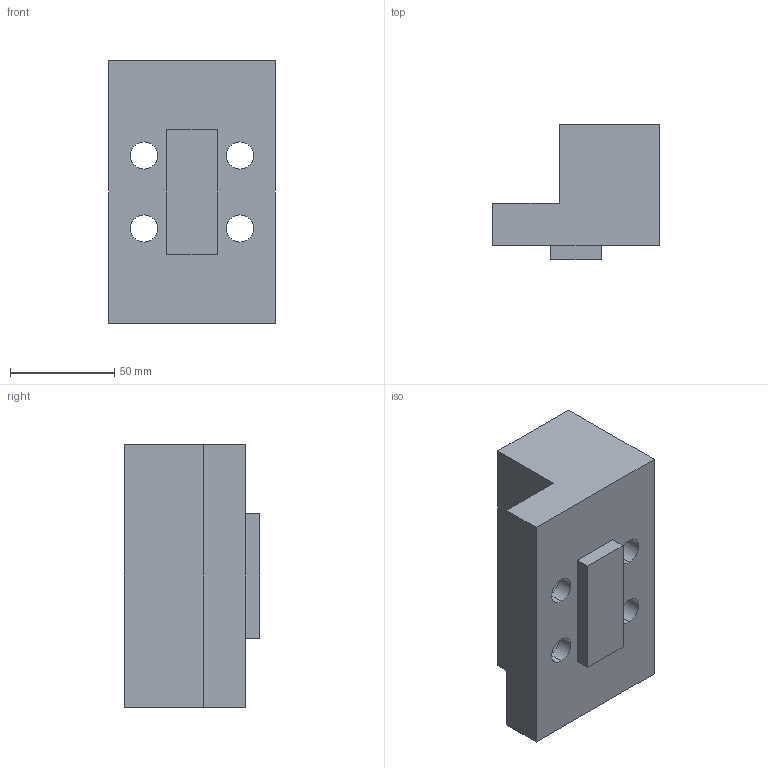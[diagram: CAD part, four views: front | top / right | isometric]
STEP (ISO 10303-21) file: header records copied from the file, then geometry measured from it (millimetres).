
FILE_DESCRIPTION (( 'STEP AP203' ), '1' );
FILE_NAME ('6921284011240.STEP', '2008-12-15T09:07:29', ( ' ' ), ( '' ), 'SwSTEP 2.0', 'SolidWorks 2008', '' );
FILE_SCHEMA (( 'CONFIG_CONTROL_DESIGN' ));
Length unit declared in the file: millimetre
Products named in the file (2): 6921284011240; 6921284011240_Kundenmodell
Assembly tree (1 placements, depth 2):
  6921284011240
    6921284011240_Kundenmodell
Bounding box: 80 x 64.9 x 126 mm (x, y, z)
Volume: 413151.8 mm3; surface area: 49013 mm2
Topology: 1 solids, 1 shells, 33 faces, 78 edges, 52 vertices
Faces by surface type: plane 17, cylinder 16
Entity records: 1176 total; most frequent: DIRECTION 184, CARTESIAN_POINT 167, ORIENTED_EDGE 156, EDGE_CURVE 78, AXIS2_PLACEMENT_3D 69, VERTEX_POINT 52, EDGE_LOOP 46, VECTOR 46
